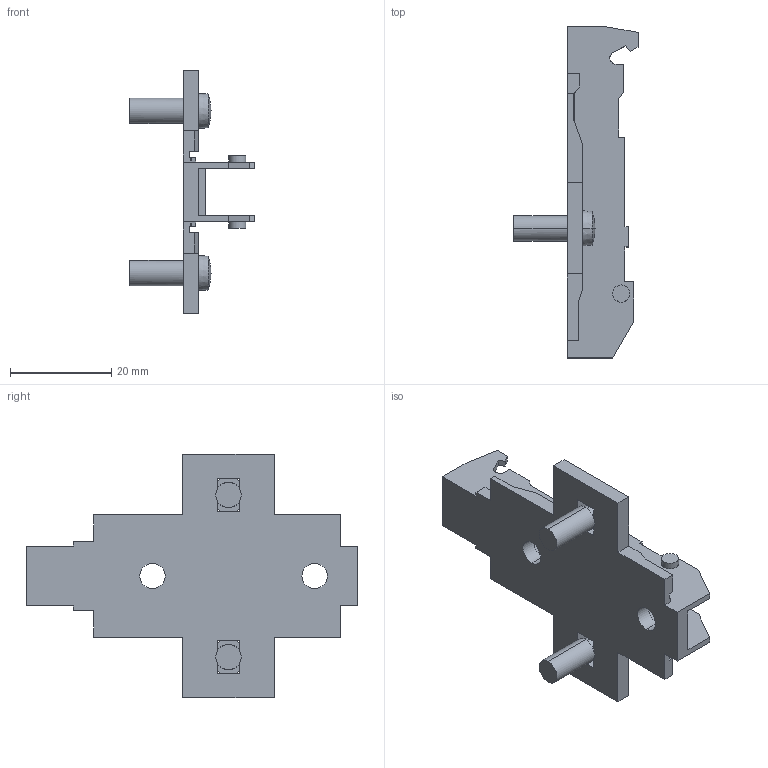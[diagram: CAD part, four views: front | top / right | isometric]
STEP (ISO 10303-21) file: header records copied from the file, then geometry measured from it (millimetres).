
FILE_DESCRIPTION (( 'STEP AP214' ), '1' );
FILE_NAME ('1D_Kreuzmontageplatte 37_32_5mm_Dübel_lang_3,5.step', '2010-11-18T10:21:40', ( 'grass' ), ( '' ), 'SwSTEP 2.0', 'SolidWorks 2010', '' );
FILE_SCHEMA (( 'AUTOMOTIVE_DESIGN' ));
Length unit declared in the file: millimetre
Products named in the file (1): 1D_Kreuzmontageplatte 37_32_5mm_Dübel_lang_3,5
Bounding box: 24.5 x 65.5 x 48 mm (x, y, z)
Volume: 6852.2 mm3; surface area: 7483.3 mm2
Topology: 1 solids, 1 shells, 130 faces, 400 edges, 258 vertices
Faces by surface type: plane 100, cylinder 22, sphere 4, cone 4
Entity records: 4506 total; most frequent: ORIENTED_EDGE 800, CARTESIAN_POINT 789, DIRECTION 742, EDGE_CURVE 400, LINE 320, VECTOR 320, VERTEX_POINT 258, AXIS2_PLACEMENT_3D 211
